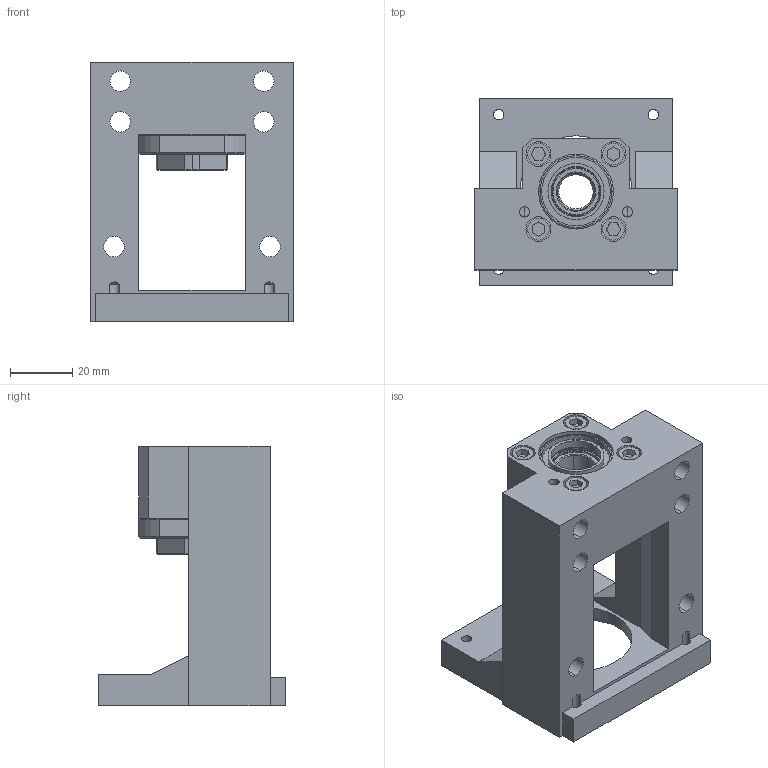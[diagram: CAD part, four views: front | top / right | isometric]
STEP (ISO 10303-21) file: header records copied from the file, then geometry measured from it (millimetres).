
FILE_DESCRIPTION (( 'STEP AP203' ), '1' );
FILE_NAME ('MBCB12-DP.STEP', '2017-12-28T06:55:31', ( '' ), ( '' ), 'SwSTEP 2.0', 'SolidWorks 2017', '' );
FILE_SCHEMA (( 'CONFIG_CONTROL_DESIGN' ));
Length unit declared in the file: millimetre
Products named in the file (1): MBCB12-DP
Bounding box: 65 x 60 x 83 mm (x, y, z)
Surface area: 35023.2 mm2 (no closed solid volume)
Topology: 0 solids, 25 shells, 252 faces, 693 edges, 459 vertices
Faces by surface type: plane 98, cylinder 85, cone 41, torus 16, sphere 8, bspline 4
Entity records: 9070 total; most frequent: CARTESIAN_POINT 2587, DIRECTION 1392, ORIENTED_EDGE 1201, EDGE_CURVE 673, AXIS2_PLACEMENT_3D 538, VERTEX_POINT 447, EDGE_LOOP 317, LINE 316
